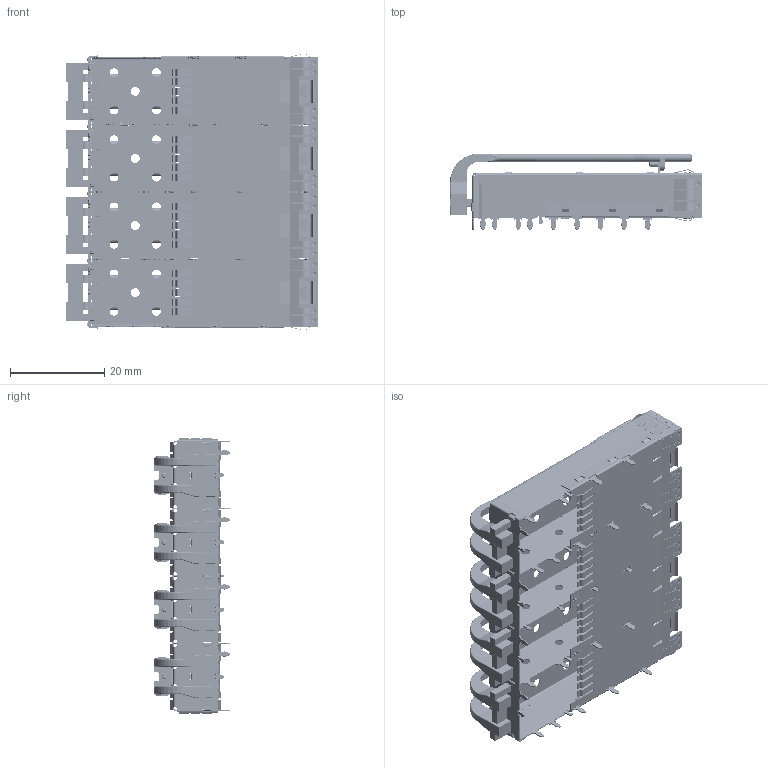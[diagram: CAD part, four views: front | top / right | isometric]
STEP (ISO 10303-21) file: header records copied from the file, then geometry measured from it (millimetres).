
FILE_DESCRIPTION (( 'STEP AP214' ), '1' );
FILE_NAME ('SS40-0020020000-0000-X.STEP', '2021-07-14T03:50:22', ( '' ), ( '' ), 'SwSTEP 2.0', 'SolidWorks 2012', '' );
FILE_SCHEMA (( 'AUTOMOTIVE_DESIGN' ));
Length unit declared in the file: millimetre
Products named in the file (12): SS40-S120_spring; SS20-S150_1x4-Top Spring Ass''y; SS40-P130_2Lightpipe to Sdf 0.90; SS20-S140_1x4 ass''y; SS20-S130-1_2.25-pressfit 5pin-ass''y; SS20-S130-1_2.25-pressfit 4pin-ass''y; SS40-0020020000-0000-X; SS40-S110-1_2.25-圓孔-導光體-ass''y; SS20-S150_1x1-Side Spring Ass''y; SS20-S130-1_pin to pin-ass''y; SS40-P130_2Lightpipe; SS20-S150_1x2-Bottom Spring Ass''y
Assembly tree (14 placements, depth 2):
  SS40-0020020000-0000-X
    SS40-S110-1_2.25-圓孔-導光體-ass''y
    SS40-S120_spring
    SS20-S130-1_pin to pin-ass''y
    SS20-S130-1_2.25-pressfit 4pin-ass''y
    SS20-S130-1_2.25-pressfit 5pin-ass''y
    SS20-S150_1x4-Top Spring Ass''y
    SS20-S150_1x2-Bottom Spring Ass''y
    SS20-S150_1x1-Side Spring Ass''y  x2
    SS20-S140_1x4 ass''y
    SS40-P130_2Lightpipe to Sdf 0.90  x3
    SS40-P130_2Lightpipe
Bounding box: 53.47 x 16.13 x 58.75 mm (x, y, z)
Volume: 3628.7 mm3; surface area: 20297.4 mm2
Topology: 14 solids, 14 shells, 6453 faces, 16971 edges, 10530 vertices
Faces by surface type: plane 3123, cylinder 2748, torus 264, bspline 166, sphere 144, cone 8
Entity records: 193098 total; most frequent: CARTESIAN_POINT 41789, DIRECTION 32324, ORIENTED_EDGE 31728, EDGE_CURVE 15864, AXIS2_PLACEMENT_3D 11501, VERTEX_POINT 9840, LINE 9322, VECTOR 9322
